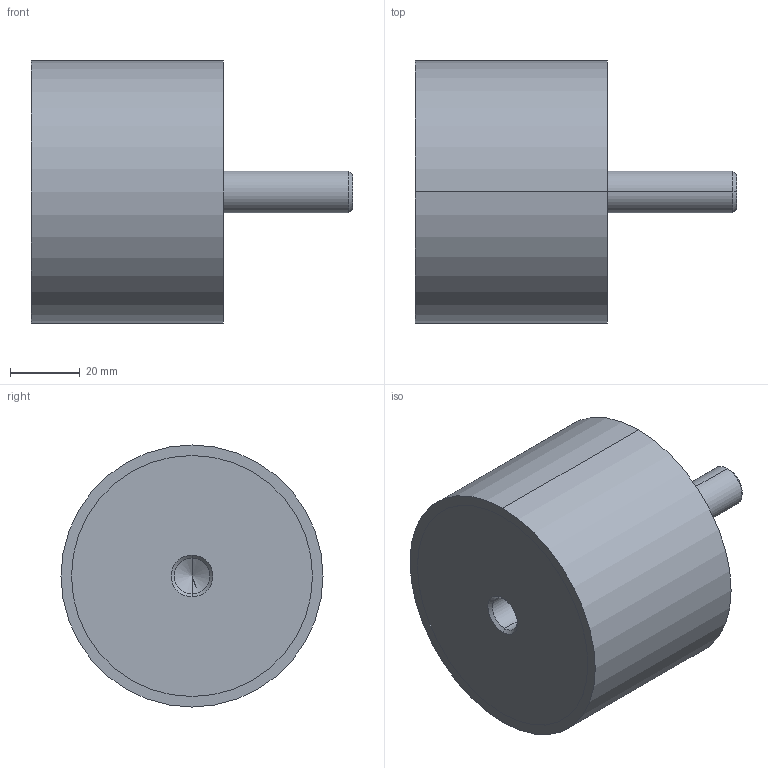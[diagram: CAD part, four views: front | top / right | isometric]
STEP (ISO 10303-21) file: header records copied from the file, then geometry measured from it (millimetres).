
FILE_DESCRIPTION (( 'STEP AP214' ), '1' );
FILE_NAME ('351-75-55-M12-ES-70.step', '2025-07-23T09:43:52', ( '' ), ( '' ), 'SwSTEP 2.0', 'SolidWorks 2022', '' );
FILE_SCHEMA (( 'AUTOMOTIVE_DESIGN' ));
Length unit declared in the file: millimetre
Products named in the file (1): 351-75-55-M12-ES-70
Bounding box: 92 x 75 x 75 mm (x, y, z)
Volume: 245879.4 mm3; surface area: 23596.8 mm2
Topology: 1 solids, 1 shells, 24 faces, 48 edges, 29 vertices
Faces by surface type: cylinder 12, cone 6, plane 6
Entity records: 740 total; most frequent: DIRECTION 124, CARTESIAN_POINT 100, ORIENTED_EDGE 92, AXIS2_PLACEMENT_3D 53, EDGE_CURVE 46, EDGE_LOOP 29, VERTEX_POINT 29, CIRCLE 28
